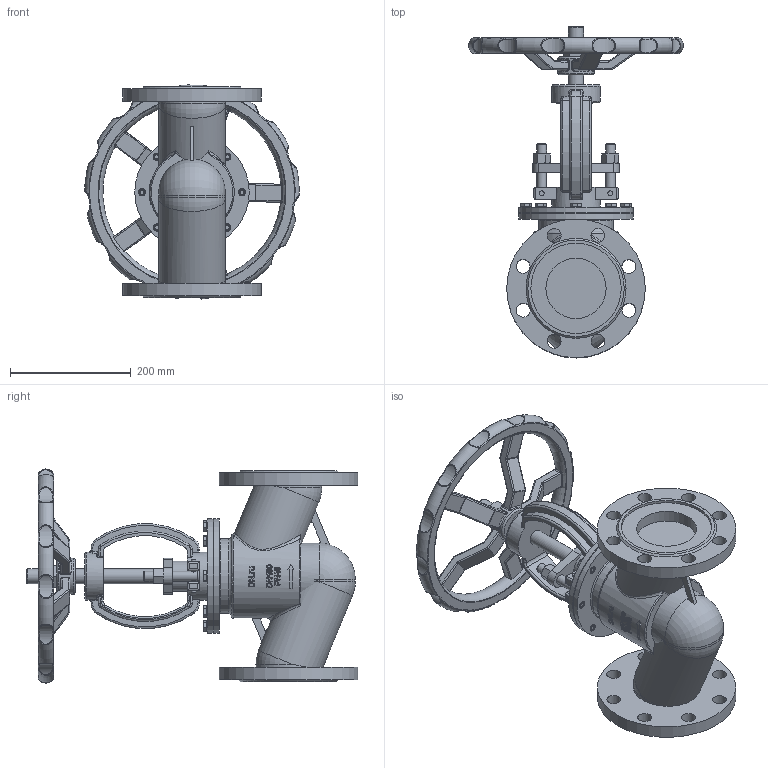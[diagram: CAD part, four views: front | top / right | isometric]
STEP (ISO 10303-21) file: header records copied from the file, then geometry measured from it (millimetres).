
FILE_DESCRIPTION(('STEP AP203'), '1');
FILE_NAME('VSO3131M-F-S 孰囡囗 玎镱痦 DN.ru 捏100 畜40', '2026-04-14T18:56:05', ('R2D2'), (''), 'C3D Converter', 'C3D Toolkit', '');
FILE_SCHEMA(('CONFIG_CONTROL_DESIGN'));
Length unit declared in the file: millimetre
Products named in the file (1): VSO3131M-F-S
Bounding box: 356.18 x 550.75 x 355.4 mm (x, y, z)
Volume: 8372903.1 mm3; surface area: 718916.9 mm2
Topology: 1 solids, 1 shells, 1157 faces, 2728 edges, 1626 vertices
Faces by surface type: plane 356, cylinder 269, torus 159, extrusion 129, cone 93, bspline 79, sphere 72
Full cylindrical faces by diameter (mm): 8 x8, 10 x8, 12 x8, 16 x12, 18 x2, 23 x16, 25 x3, 30 x1, 32.5 x1, 50 x1, 60 x1, 80 x2, 100 x2, 110 x3, 124 x1, 150 x2, 190 x2, 230 x2
Entity records: 75673 total; most frequent: CARTESIAN_POINT 41370, ORIENTED_EDGE 5192, DIRECTION 4852, EDGE_CURVE 2596, AXIS2_PLACEMENT_3D 1944, VERTEX_POINT 1622, EDGE_LOOP 1398, FACE_BOUND 1215
